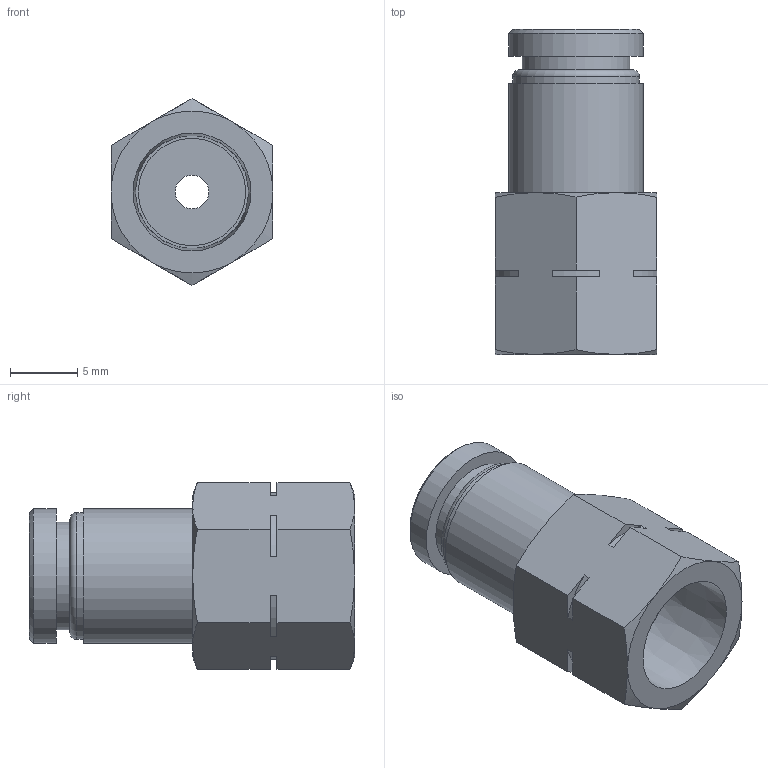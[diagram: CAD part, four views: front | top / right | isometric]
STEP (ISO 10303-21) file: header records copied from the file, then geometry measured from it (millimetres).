
FILE_DESCRIPTION(/* description */ (''),/* implementation_level */ '2;1');
FILE_NAME(/* name */ 'LXH14 0004 N1.stp',/* time_stamp */ '2026-04-28T14:48:59+02:00',/* author */ ('freju'),/* organization */ (''),/* preprocessor_version */ 'ST-DEVELOPER v20.1',/* originating_system */ 'Autodesk Inventor 2026',/* authorisation */ '');
FILE_SCHEMA (('AUTOMOTIVE_DESIGN { 1 0 10303 214 3 1 1 }'));
Length unit declared in the file: millimetre
Products named in the file (1): LXH14 0004 N1
Bounding box: 12 x 24.1 x 13.86 mm (x, y, z)
Volume: 1738.4 mm3; surface area: 1571 mm2
Topology: 1 solids, 1 shells, 55 faces, 126 edges, 80 vertices
Faces by surface type: plane 27, cone 14, cylinder 13, torus 1
Full cylindrical faces by diameter (mm): 2.5 x1, 4 x1, 7.95 x1, 8 x1, 9.4 x1, 10 x2
Entity records: 1572 total; most frequent: CARTESIAN_POINT 310, DIRECTION 259, ORIENTED_EDGE 252, EDGE_CURVE 126, AXIS2_PLACEMENT_3D 101, VERTEX_POINT 80, EDGE_LOOP 64, LINE 57
